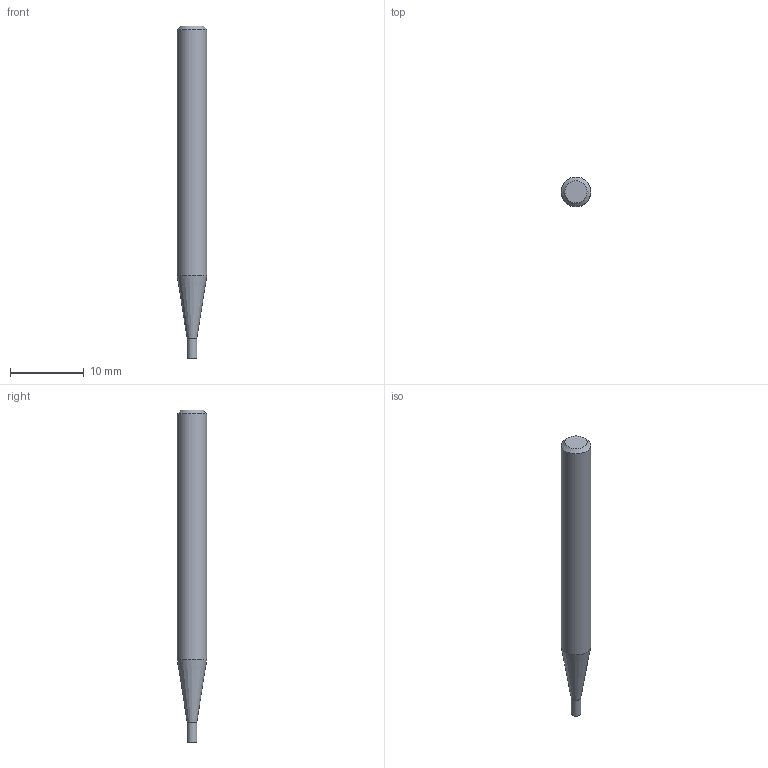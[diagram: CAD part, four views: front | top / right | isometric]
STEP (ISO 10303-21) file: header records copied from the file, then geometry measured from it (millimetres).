
FILE_DESCRIPTION((''),'2;1');
FILE_NAME('C:\Users\nsx150\AppData\Local\Temp\Mastercam 2021\QTW1OOEEGF\TEMP.step','2021-04-08T10:36:21',(''),(''),'STEP Write','Mastercam 2021 ... CNC Software, Inc.','');
FILE_SCHEMA(('AUTOMOTIVE_DESIGN'));
Length unit declared in the file: millimetre
Products named in the file (1): None
Bounding box: 4 x 4 x 45 mm (x, y, z)
Volume: 478.8 mm3; surface area: 520.7 mm2
Topology: 2 solids, 2 shells, 8 faces, 10 edges, 6 vertices
Faces by surface type: plane 4, cylinder 2, cone 2
Full cylindrical faces by diameter (mm): 1.3 x1, 4 x1
Entity records: 190 total; most frequent: DIRECTION 32, CARTESIAN_POINT 22, AXIS2_PLACEMENT_3D 16, ORIENTED_EDGE 12, EDGE_LOOP 12, STYLED_ITEM 11, ADVANCED_FACE 8, VERTEX_POINT 6
